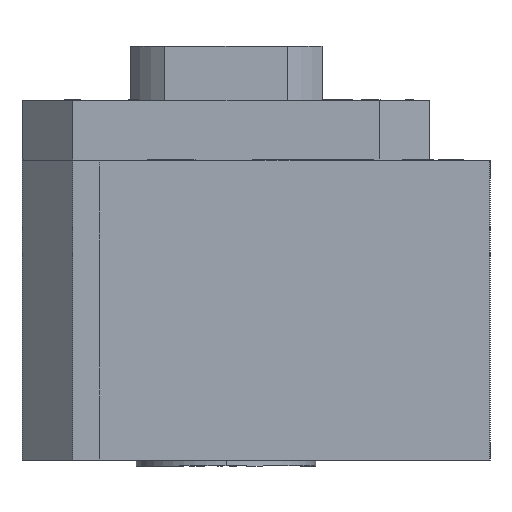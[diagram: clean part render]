
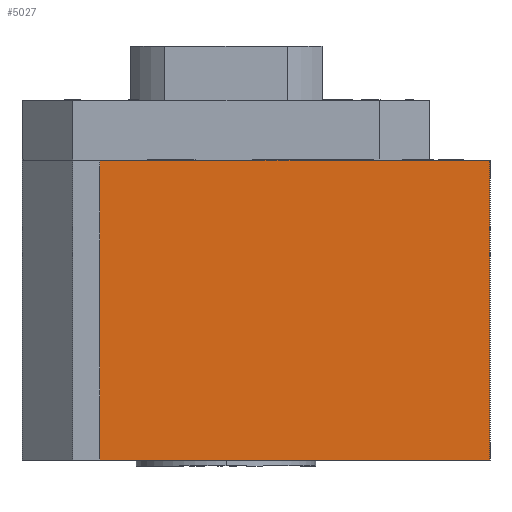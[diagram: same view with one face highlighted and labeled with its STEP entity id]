
A CAD part, left-side view. The second image highlights one B-rep face of the part: STEP entity #5027.
In plain terms, the highlighted free-form (B-spline) face has degree [1, 1] with [2, 2] control points.
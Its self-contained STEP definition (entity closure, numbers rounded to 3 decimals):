
#4643=CARTESIAN_POINT('',(-30.,0.,0.));
#4644=VERTEX_POINT('',#4643);
#4650=CARTESIAN_POINT('',(-30.,32.5,0.));
#4651=VERTEX_POINT('',#4650);
#4652=CARTESIAN_POINT('',(-30.,0.,0.));
#4653=CARTESIAN_POINT('',(-30.,32.5,0.));
#4654=B_SPLINE_CURVE_WITH_KNOTS('',1,(#4652,#4653),.POLYLINE_FORM.,.F.,.U.,(2,2),(0.,1.),.UNSPECIFIED.);
#4655=EDGE_CURVE('',#4644,#4651,#4654,.T.);
#4725=CARTESIAN_POINT('',(-30.,32.5,25.));
#4726=VERTEX_POINT('',#4725);
#4727=CARTESIAN_POINT('',(-30.,32.5,0.));
#4728=CARTESIAN_POINT('',(-30.,32.5,25.));
#4729=B_SPLINE_CURVE_WITH_KNOTS('',1,(#4727,#4728),.POLYLINE_FORM.,.F.,.U.,(2,2),(0.,1.),.UNSPECIFIED.);
#4730=EDGE_CURVE('',#4651,#4726,#4729,.T.);
#4952=CARTESIAN_POINT('',(-30.,0.,25.));
#4953=VERTEX_POINT('',#4952);
#4959=CARTESIAN_POINT('',(-30.,0.,25.));
#4960=CARTESIAN_POINT('',(-30.,0.,0.));
#4961=B_SPLINE_CURVE_WITH_KNOTS('',1,(#4959,#4960),.POLYLINE_FORM.,.F.,.U.,(2,2),(0.,1.),.UNSPECIFIED.);
#4962=EDGE_CURVE('',#4953,#4644,#4961,.T.);
#5012=CARTESIAN_POINT('',(-30.,94.005,86.505));
#5013=CARTESIAN_POINT('',(-30.,-29.005,86.505));
#5014=CARTESIAN_POINT('',(-30.,94.005,-36.505));
#5015=CARTESIAN_POINT('',(-30.,-29.005,-36.505));
#5016=B_SPLINE_SURFACE_WITH_KNOTS('',1,1,((#5012,#5013),(#5014,#5015)),.PLANE_SURF.,.F.,.F.,.U.,(2,2),(2,2),(0.,1.),(0.,1.),.UNSPECIFIED.);
#5017=ORIENTED_EDGE('',*,*,#4962,.F.);
#5018=CARTESIAN_POINT('',(-30.,0.,25.));
#5019=CARTESIAN_POINT('',(-30.,32.5,25.));
#5020=B_SPLINE_CURVE_WITH_KNOTS('',1,(#5018,#5019),.POLYLINE_FORM.,.F.,.U.,(2,2),(0.,1.),.UNSPECIFIED.);
#5021=EDGE_CURVE('',#4953,#4726,#5020,.T.);
#5022=ORIENTED_EDGE('',*,*,#5021,.T.);
#5023=ORIENTED_EDGE('',*,*,#4730,.F.);
#5024=ORIENTED_EDGE('',*,*,#4655,.F.);
#5025=EDGE_LOOP('',(#5017,#5022,#5023,#5024));
#5026=FACE_OUTER_BOUND('',#5025,.T.);
#5027=ADVANCED_FACE('',(#5026),#5016,.T.);
